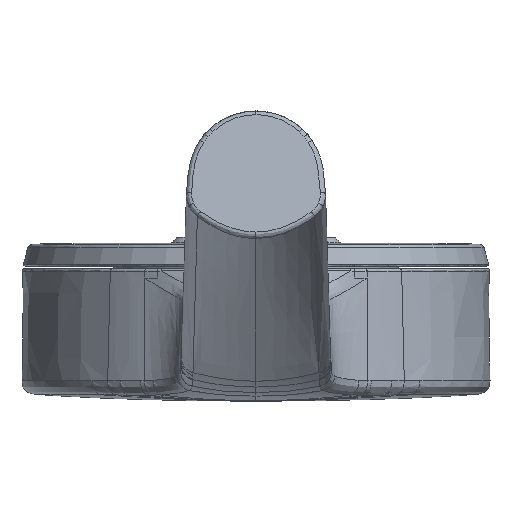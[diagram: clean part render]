
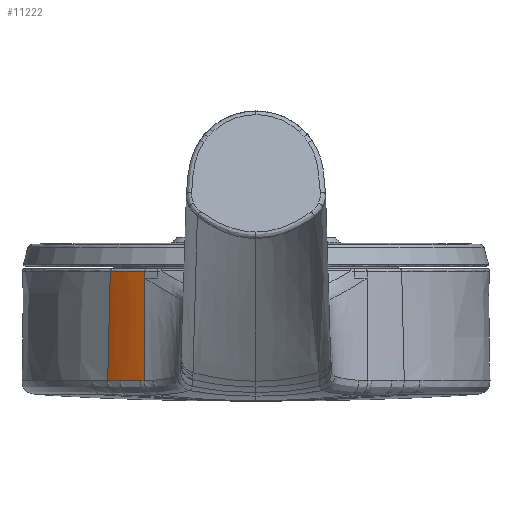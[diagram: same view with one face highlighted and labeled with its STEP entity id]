
A CAD part, front view. The second image highlights one B-rep face of the part: STEP entity #11222.
In plain terms, the highlighted free-form (B-spline) face has degree [5, 5] with [6, 6] control points.
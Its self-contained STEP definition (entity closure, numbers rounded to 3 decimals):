
#29 = VERTEX_POINT ( 'NONE', #1406 ) ;
#618 = VECTOR ( 'NONE', #21450, 1000. ) ;
#1223 = CARTESIAN_POINT ( 'NONE',  ( -24.745, -37.851, -21.596 ) ) ;
#1406 = CARTESIAN_POINT ( 'NONE',  ( -22.214, -39.353, -21.58 ) ) ;
#1431 = CARTESIAN_POINT ( 'NONE',  ( -23.749, -38.321, -0.496 ) ) ;
#1587 = ORIENTED_EDGE ( 'NONE', *, *, #19819, .T. ) ;
#1798 = CARTESIAN_POINT ( 'NONE',  ( -25.753, -37.057, -9.589 ) ) ;
#1823 = CARTESIAN_POINT ( 'NONE',  ( -27.816, -35.625, -21.576 ) ) ;
#1921 = CARTESIAN_POINT ( 'NONE',  ( -25.976, -37.005, -19.178 ) ) ;
#2749 = CARTESIAN_POINT ( 'NONE',  ( -23.024, -38.902, -19.076 ) ) ;
#2762 = B_SPLINE_CURVE_WITH_KNOTS ( 'NONE', 3,
 ( #6795, #9109, #1431, #16401 ),
 .UNSPECIFIED., .F., .F.,
 ( 4, 4 ),
 ( 0., 1. ),
 .UNSPECIFIED. ) ;
#2937 = CARTESIAN_POINT ( 'NONE',  ( -21.408, -39.6, -1.801 ) ) ;
#3732 = CARTESIAN_POINT ( 'NONE',  ( -27.316, -36.007, -19.201 ) ) ;
#4088 = CARTESIAN_POINT ( 'NONE',  ( -21.353, -39.659, -4.752 ) ) ;
#4284 = VERTEX_POINT ( 'NONE', #22394 ) ;
#4551 = ORIENTED_EDGE ( 'NONE', *, *, #18466, .T. ) ;
#4722 = VERTEX_POINT ( 'NONE', #10616 ) ;
#4782 = CARTESIAN_POINT ( 'NONE',  ( -21.402, -39.589, -0.496 ) ) ;
#5258 = EDGE_CURVE ( 'NONE', #5270, #29, #6440, .T. ) ;
#5270 = VERTEX_POINT ( 'NONE', #18123 ) ;
#5526 = EDGE_CURVE ( 'NONE', #9946, #5270, #8475, .T. ) ;
#5680 = CARTESIAN_POINT ( 'NONE',  ( -22.897, -38.875, -9.538 ) ) ;
#5800 = CARTESIAN_POINT ( 'NONE',  ( -28.343, -35.06, -9.6 ) ) ;
#6440 = B_SPLINE_CURVE_WITH_KNOTS ( 'NONE', 3,
 ( #17888, #1223, #8642, #6818 ),
 .UNSPECIFIED., .F., .F.,
 ( 4, 4 ),
 ( 0., 1. ),
 .UNSPECIFIED. ) ;
#6456 = CARTESIAN_POINT ( 'NONE',  ( -28.314, -35.099, -11.035 ) ) ;
#6795 = CARTESIAN_POINT ( 'NONE',  ( -28.068, -35.179, -0.496 ) ) ;
#6818 = CARTESIAN_POINT ( 'NONE',  ( -22.214, -39.353, -21.58 ) ) ;
#6961 = CARTESIAN_POINT ( 'NONE',  ( -21.491, -39.753, -21.575 ) ) ;
#7166 = B_SPLINE_SURFACE_WITH_KNOTS ( 'NONE', 5, 5, ( 
 ( #16649, #16881, #9710, #7627, #9582, #14817 ),
 ( #15058, #14696, #17002, #22371, #20784, #4088 ),
 ( #5800, #13106, #1798, #11523, #5680, #24081 ),
 ( #18708, #22141, #20301, #11052, #18465, #12990 ),
 ( #22254, #3732, #1921, #11879, #2749, #19309 ),
 ( #21144, #7873, #19076, #12117, #10185, #22977 ) ),
 .UNSPECIFIED., .F., .F., .F.,
 ( 6, 6 ),
 ( 6, 6 ),
 ( 0., 1. ),
 ( 0., 1. ),
 .UNSPECIFIED. ) ;
#7627 = CARTESIAN_POINT ( 'NONE',  ( -24.168, -38.012, 0. ) ) ;
#7873 = CARTESIAN_POINT ( 'NONE',  ( -27.433, -35.971, -24.001 ) ) ;
#8445 = ORIENTED_EDGE ( 'NONE', *, *, #5258, .T. ) ;
#8475 = B_SPLINE_CURVE_WITH_KNOTS ( 'NONE', 3,
 ( #22393, #1823, #20563, #16671 ),
 .UNSPECIFIED., .F., .F.,
 ( 4, 4 ),
 ( 0., 1. ),
 .UNSPECIFIED. ) ;
#8642 = CARTESIAN_POINT ( 'NONE',  ( -23.409, -38.679, -21.587 ) ) ;
#8783 = CARTESIAN_POINT ( 'NONE',  ( -22.214, -39.353, -21.58 ) ) ;
#9109 = CARTESIAN_POINT ( 'NONE',  ( -25.983, -36.843, -0.496 ) ) ;
#9369 = ORIENTED_EDGE ( 'NONE', *, *, #21016, .T. ) ;
#9582 = CARTESIAN_POINT ( 'NONE',  ( -22.77, -38.848, 0. ) ) ;
#9607 = VECTOR ( 'NONE', #10480, 1000. ) ;
#9710 = CARTESIAN_POINT ( 'NONE',  ( -25.531, -37.11, 0. ) ) ;
#9946 = VERTEX_POINT ( 'NONE', #16495 ) ;
#10185 = CARTESIAN_POINT ( 'NONE',  ( -23.087, -38.916, -23.845 ) ) ;
#10480 = DIRECTION ( 'NONE',  ( 0.023, -0.008, 1. ) ) ;
#10616 = CARTESIAN_POINT ( 'NONE',  ( -28.068, -35.179, -0.496 ) ) ;
#11033 = EDGE_CURVE ( 'NONE', #4722, #13435, #2762, .T. ) ;
#11052 = CARTESIAN_POINT ( 'NONE',  ( -24.452, -37.988, -14.349 ) ) ;
#11222 = ADVANCED_FACE ( 'NONE', ( #11290 ), #7166, .T. ) ;
#11290 = FACE_OUTER_BOUND ( 'NONE', #22789, .T. ) ;
#11514 = VERTEX_POINT ( 'NONE', #19248 ) ;
#11523 = CARTESIAN_POINT ( 'NONE',  ( -24.358, -37.996, -9.566 ) ) ;
#11879 = CARTESIAN_POINT ( 'NONE',  ( -24.547, -37.98, -19.132 ) ) ;
#12117 = CARTESIAN_POINT ( 'NONE',  ( -24.642, -37.972, -23.916 ) ) ;
#12528 = LINE ( 'NONE', #6456, #9607 ) ;
#12817 = DIRECTION ( 'NONE',  ( 0.004, 0.008, 1. ) ) ;
#12990 = CARTESIAN_POINT ( 'NONE',  ( -21.389, -39.735, -14.256 ) ) ;
#13106 = CARTESIAN_POINT ( 'NONE',  ( -27.082, -36.079, -9.6 ) ) ;
#13435 = VERTEX_POINT ( 'NONE', #4782 ) ;
#13748 = EDGE_CURVE ( 'NONE', #9946, #4722, #12528, .T. ) ;
#14395 = CARTESIAN_POINT ( 'NONE',  ( -21.491, -39.753, -21.575 ) ) ;
#14696 = CARTESIAN_POINT ( 'NONE',  ( -26.965, -36.115, -4.8 ) ) ;
#14817 = CARTESIAN_POINT ( 'NONE',  ( -21.335, -39.621, 0. ) ) ;
#15058 = CARTESIAN_POINT ( 'NONE',  ( -28.231, -35.096, -4.8 ) ) ;
#15096 = B_SPLINE_CURVE_WITH_KNOTS ( 'NONE', 3,
 ( #8783, #23652, #24007, #6961 ),
 .UNSPECIFIED., .F., .F.,
 ( 4, 4 ),
 ( 0., 1. ),
 .UNSPECIFIED. ) ;
#15495 = LINE ( 'NONE', #2937, #618 ) ;
#16401 = CARTESIAN_POINT ( 'NONE',  ( -21.402, -39.589, -0.496 ) ) ;
#16495 = CARTESIAN_POINT ( 'NONE',  ( -28.56, -35.018, -21.573 ) ) ;
#16649 = CARTESIAN_POINT ( 'NONE',  ( -28.119, -35.133, 0. ) ) ;
#16671 = CARTESIAN_POINT ( 'NONE',  ( -26.145, -36.856, -21.587 ) ) ;
#16881 = CARTESIAN_POINT ( 'NONE',  ( -26.848, -36.15, 0. ) ) ;
#17002 = CARTESIAN_POINT ( 'NONE',  ( -25.642, -37.084, -4.795 ) ) ;
#17329 = ORIENTED_EDGE ( 'NONE', *, *, #13748, .F. ) ;
#17411 = VECTOR ( 'NONE', #12817, 1000. ) ;
#17888 = CARTESIAN_POINT ( 'NONE',  ( -26.145, -36.856, -21.587 ) ) ;
#18123 = CARTESIAN_POINT ( 'NONE',  ( -26.145, -36.856, -21.587 ) ) ;
#18169 = LINE ( 'NONE', #14395, #17411 ) ;
#18465 = CARTESIAN_POINT ( 'NONE',  ( -22.96, -38.889, -14.307 ) ) ;
#18466 = EDGE_CURVE ( 'NONE', #29, #4284, #15096, .T. ) ;
#18708 = CARTESIAN_POINT ( 'NONE',  ( -28.454, -35.023, -14.4 ) ) ;
#19076 = CARTESIAN_POINT ( 'NONE',  ( -26.087, -36.979, -23.973 ) ) ;
#19248 = CARTESIAN_POINT ( 'NONE',  ( -21.408, -39.6, -1.801 ) ) ;
#19256 = ORIENTED_EDGE ( 'NONE', *, *, #5526, .T. ) ;
#19309 = CARTESIAN_POINT ( 'NONE',  ( -21.407, -39.773, -19.009 ) ) ;
#19819 = EDGE_CURVE ( 'NONE', #4284, #11514, #18169, .T. ) ;
#20301 = CARTESIAN_POINT ( 'NONE',  ( -25.865, -37.031, -14.384 ) ) ;
#20563 = CARTESIAN_POINT ( 'NONE',  ( -27.014, -36.24, -21.581 ) ) ;
#20784 = CARTESIAN_POINT ( 'NONE',  ( -22.833, -38.862, -4.769 ) ) ;
#21016 = EDGE_CURVE ( 'NONE', #11514, #13435, #15495, .T. ) ;
#21090 = ORIENTED_EDGE ( 'NONE', *, *, #11033, .F. ) ;
#21144 = CARTESIAN_POINT ( 'NONE',  ( -28.678, -34.95, -24. ) ) ;
#21450 = DIRECTION ( 'NONE',  ( 0.004, 0.008, 1. ) ) ;
#22141 = CARTESIAN_POINT ( 'NONE',  ( -27.199, -36.043, -14.401 ) ) ;
#22254 = CARTESIAN_POINT ( 'NONE',  ( -28.566, -34.986, -19.2 ) ) ;
#22371 = CARTESIAN_POINT ( 'NONE',  ( -24.263, -38.004, -4.783 ) ) ;
#22393 = CARTESIAN_POINT ( 'NONE',  ( -28.56, -35.018, -21.573 ) ) ;
#22394 = CARTESIAN_POINT ( 'NONE',  ( -21.491, -39.753, -21.575 ) ) ;
#22789 = EDGE_LOOP ( 'NONE', ( #17329, #19256, #8445, #4551, #1587, #9369, #21090 ) ) ;
#22977 = CARTESIAN_POINT ( 'NONE',  ( -21.424, -39.811, -23.761 ) ) ;
#23652 = CARTESIAN_POINT ( 'NONE',  ( -21.976, -39.488, -21.579 ) ) ;
#24007 = CARTESIAN_POINT ( 'NONE',  ( -21.735, -39.621, -21.577 ) ) ;
#24081 = CARTESIAN_POINT ( 'NONE',  ( -21.371, -39.697, -9.504 ) ) ;
